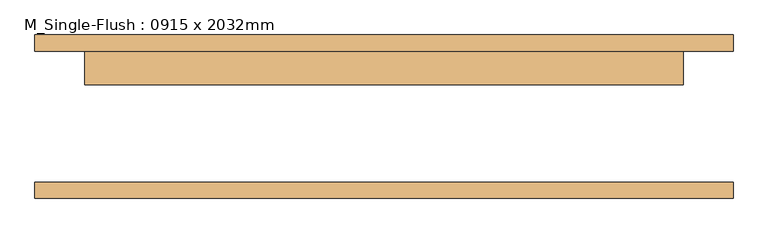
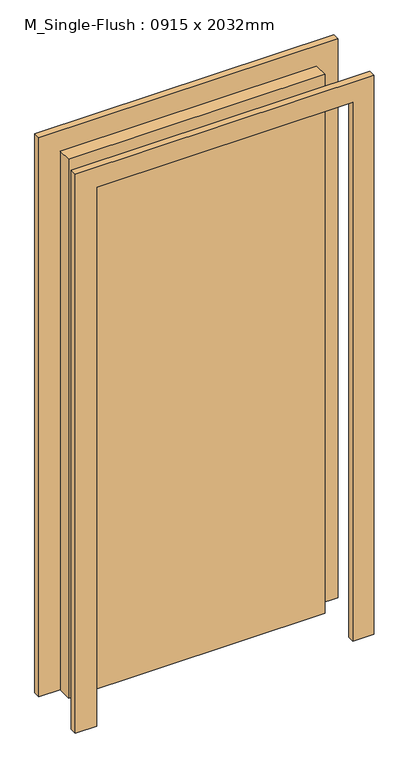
"""IFC4 building model written with IfcOpenShell, lengths in millimetres: door geometry, M_Single-Flush : 0915 x 2032mm."""

from ifc_helpers import new_model, si_unit, frame, origin, origin_with_axes, place, context, project, spatial, polyline, outline, extrude, source, transform, mapped, element, save


def m_single_flush_0915_x_2032mm_7267827e(model_context):
    return source(origin(), model_context, "Body", "SweptSolid", [
        extrude(outline(polyline([(2108.0, -533.5), (0.0, -533.5), (0.0, -457.5), (2032.0, -457.5), (2032.0, 457.5), (0.0, 457.5), (0.0, 533.5), (2108.0, 533.5), (2108.0, -533.5)])), frame((0.0, 100.0, 0.0), z_axis=(0.0, 1.0, 0.0), x_axis=(0.0, 0.0, 1.0)), (0.0, 0.0, 1.0), 25.0),
        extrude(outline(polyline([(2108.0, 533.5), (2108.0, -533.5), (0.0, -533.5), (0.0, -457.5), (2032.0, -457.5), (2032.0, 457.5), (0.0, 457.5), (0.0, 533.5), (2108.0, 533.5)])), frame((0.0, -125.0, 0.0), z_axis=(0.0, 1.0, 0.0), x_axis=(0.0, 0.0, 1.0)), (0.0, 0.0, 1.0), 25.0),
        extrude(outline(polyline([(457.5, 49.0), (-457.5, 49.0), (-457.5, 100.0), (457.5, 100.0), (457.5, 49.0)])), origin_with_axes(), (0.0, 0.0, 1.0), 2032.0),
    ])


if __name__ == "__main__":
    model = new_model("IFC4")
    model_context = context("Model", 3, world=origin())
    ifc_project = project(units=[si_unit("LENGTHUNIT", "METRE", prefix="MILLI")], contexts=[model_context])
    site = spatial("IfcSite", under=ifc_project)
    building = spatial("IfcBuilding", under=site)
    placement = place(None, origin())
    m_single_flush_0915_x_2032mm_shape = m_single_flush_0915_x_2032mm_7267827e(model_context)
    element("IfcDoor", 1, ObjectType="M_Single-Flush : 0915 x 2032mm", at=placement, inside=building, context=model_context, shape_type="MappedRepresentation", body=[
        mapped(m_single_flush_0915_x_2032mm_shape, transform((0.0, 0.0, 0.0), x_axis=(1.0, 0.0, 0.0), y_axis=(0.0, 1.0, 0.0), z_axis=(0.0, 0.0, 1.0))),
    ])
    save(model, "model.ifc")
